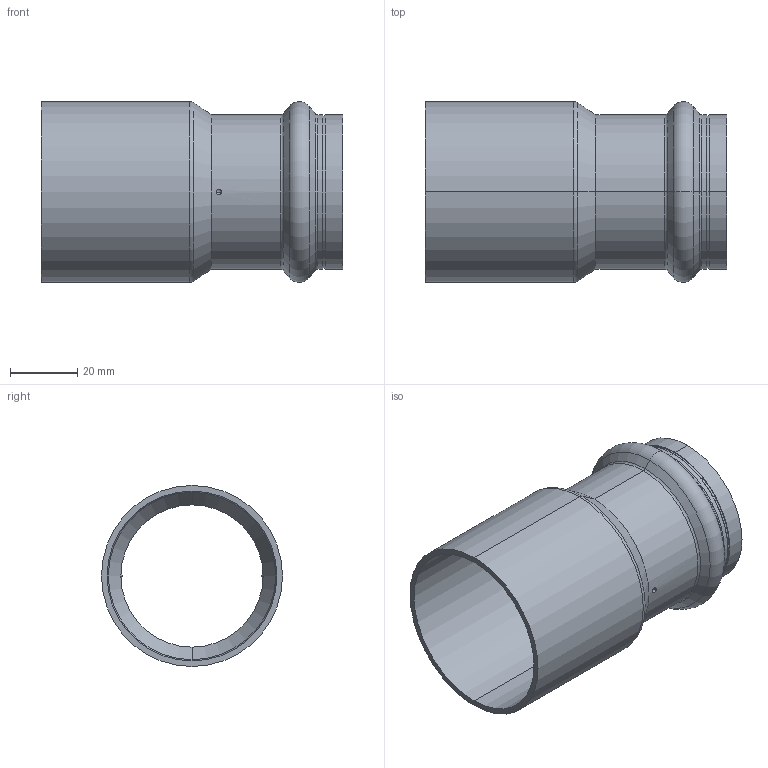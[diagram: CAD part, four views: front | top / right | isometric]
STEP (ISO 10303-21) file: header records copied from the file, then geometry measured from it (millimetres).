
FILE_DESCRIPTION (( 'STEP AP203' ), '1' );
FILE_NAME ('SP5243 54-42.STEP', '2017-04-24T09:07:20', ( '' ), ( '' ), 'SwSTEP 2.0', 'SolidWorks 2016', '' );
FILE_SCHEMA (( 'CONFIG_CONTROL_DESIGN' ));
Length unit declared in the file: millimetre
Products named in the file (1): SP5243 54-42
Bounding box: 90 x 54 x 54 mm (x, y, z)
Volume: 24998.6 mm3; surface area: 29659.4 mm2
Topology: 1 solids, 1 shells, 56 faces, 112 edges, 64 vertices
Faces by surface type: torus 16, cylinder 16, cone 12, sphere 8, plane 4
Entity records: 1645 total; most frequent: CARTESIAN_POINT 357, DIRECTION 294, ORIENTED_EDGE 224, AXIS2_PLACEMENT_3D 133, EDGE_CURVE 112, CIRCLE 76, EDGE_LOOP 64, VERTEX_POINT 64
